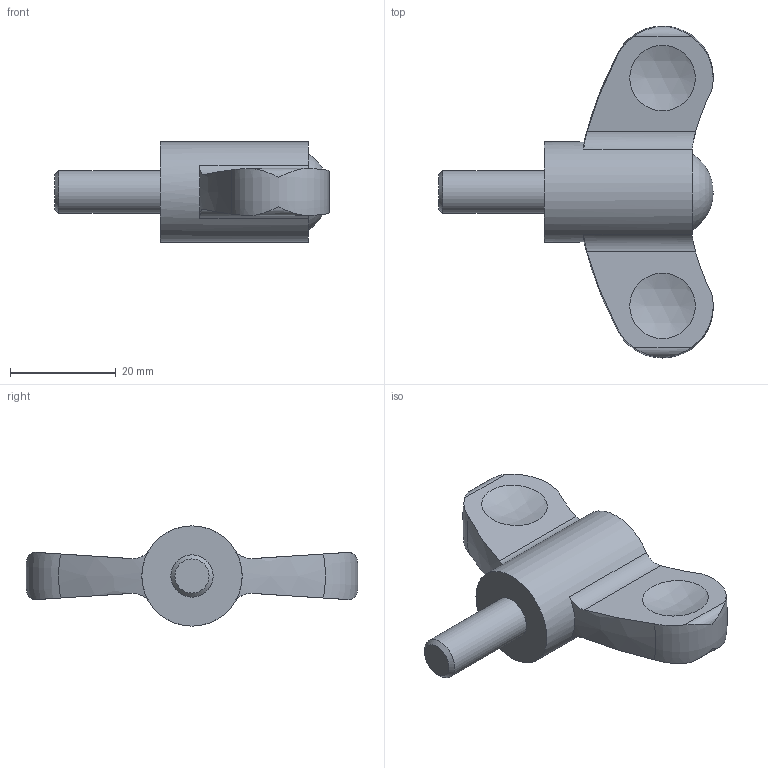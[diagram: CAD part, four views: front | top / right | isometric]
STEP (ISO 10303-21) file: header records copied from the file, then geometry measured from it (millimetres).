
FILE_DESCRIPTION( ( 'STEP AP203' ), '1' );
FILE_NAME( 'C:/Temp/Ganter_Step_05_03_2020/data/2_2/gn_633/Wing nut GN 633-63-M8-20-DBL.stp', '2020-03-05T12:20:56', ( 'License CC BY-ND 4.0' ), ( 'CADENAS' ), ' ', 'PARTsolutions', ' ' );
FILE_SCHEMA( ( 'CONFIG_CONTROL_DESIGN' ) );
Length unit declared in the file: millimetre
Products named in the file (1): _Wing nut GN 633-63-M8-20-DBL
Bounding box: 52 x 62.9 x 19 mm (x, y, z)
Volume: 15179.2 mm3; surface area: 5028.2 mm2
Topology: 1 solids, 1 shells, 29 faces, 75 edges, 52 vertices
Faces by surface type: cylinder 10, sphere 7, plane 6, bspline 3, torus 2, cone 1
Full cylindrical faces by diameter (mm): 8 x1, 19 x1
Entity records: 1209 total; most frequent: CARTESIAN_POINT 536, ORIENTED_EDGE 134, DIRECTION 112, EDGE_CURVE 67, AXIS2_PLACEMENT_3D 50, VERTEX_POINT 50, EDGE_LOOP 38, FACE_OUTER_BOUND 32
